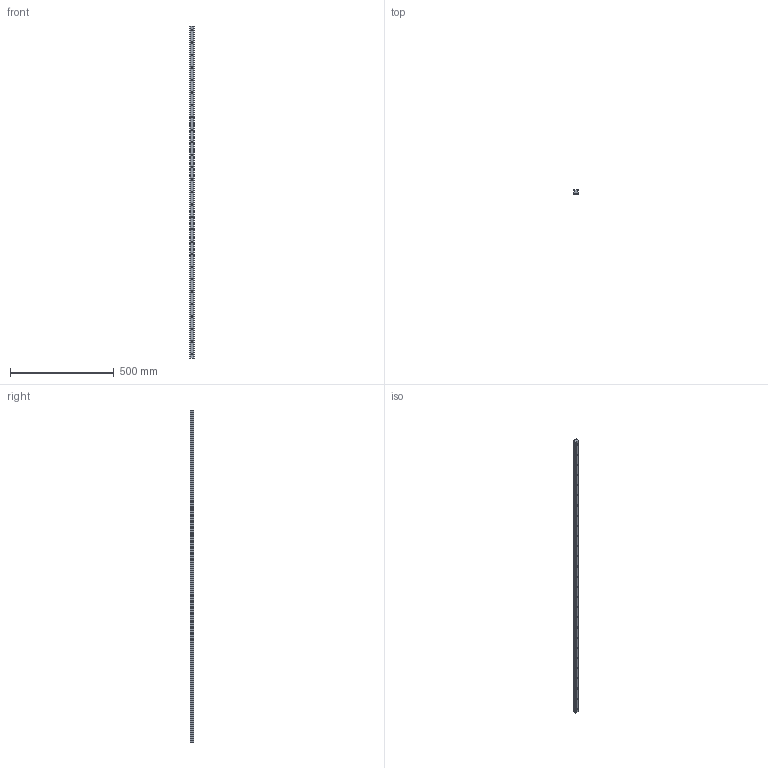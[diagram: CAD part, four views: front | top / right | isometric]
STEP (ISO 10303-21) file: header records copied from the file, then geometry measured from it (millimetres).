
FILE_DESCRIPTION (( 'STEP AP203' ), '1' );
FILE_NAME ('L1016.BRF25-1600.step', '2019-06-13T08:38:54', ( '' ), ( '' ), 'SwSTEP 2.0', 'SolidWorks 2017', '' );
FILE_SCHEMA (( 'CONFIG_CONTROL_DESIGN' ));
Length unit declared in the file: millimetre
Products named in the file (1): L1016.BRF25-1600
Bounding box: 23 x 19.2 x 1600 mm (x, y, z)
Volume: 610824.3 mm3; surface area: 147637.2 mm2
Topology: 1 solids, 1 shells, 215 faces, 504 edges, 291 vertices
Faces by surface type: cylinder 112, cone 54, plane 49
Entity records: 5869 total; most frequent: DIRECTION 1106, CARTESIAN_POINT 957, ORIENTED_EDGE 900, EDGE_CURVE 450, AXIS2_PLACEMENT_3D 440, VERTEX_POINT 291, EDGE_LOOP 269, VECTOR 226
